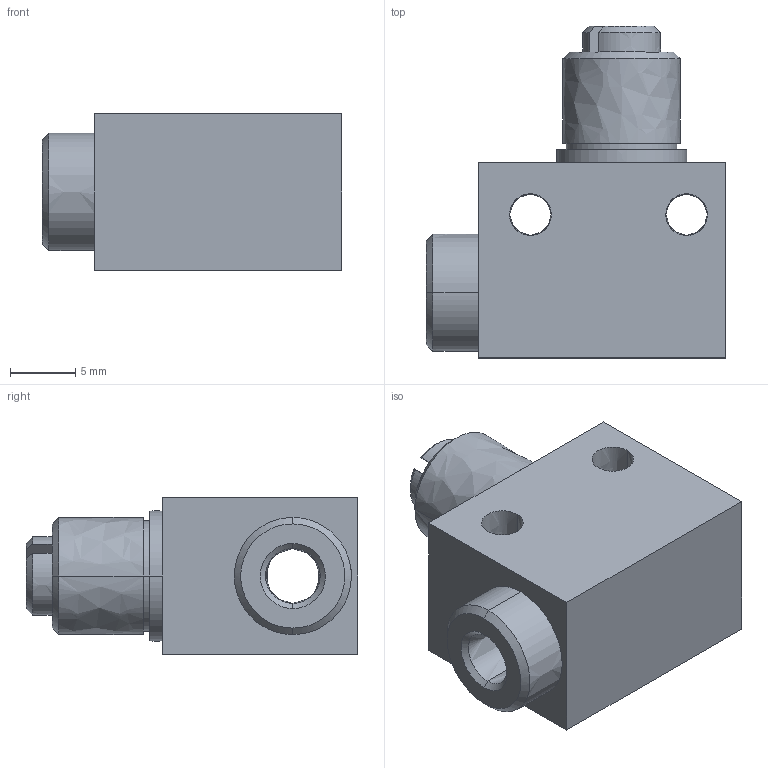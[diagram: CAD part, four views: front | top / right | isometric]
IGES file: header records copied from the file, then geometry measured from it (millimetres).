
Start section:  PTC IGES file: 190002_sco.igs
Global section: file name: 190002_sco.igs; native system: Pro/ENGINEER by Parametric Technology Corporation; preprocessor: 2004090; author: KAIHATSU01; organization: Unknown; date: 061017.112635; units: millimetre
Bounding box: 23 x 25.5 x 12 mm (x, y, z)
Volume: 3749.7 mm3; surface area: 2269.8 mm2
Topology: 1 solids, 1 shells, 40 faces, 88 edges, 56 vertices
Faces by surface type: bspline 40
